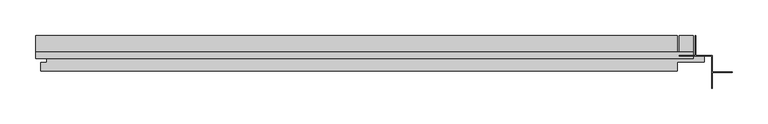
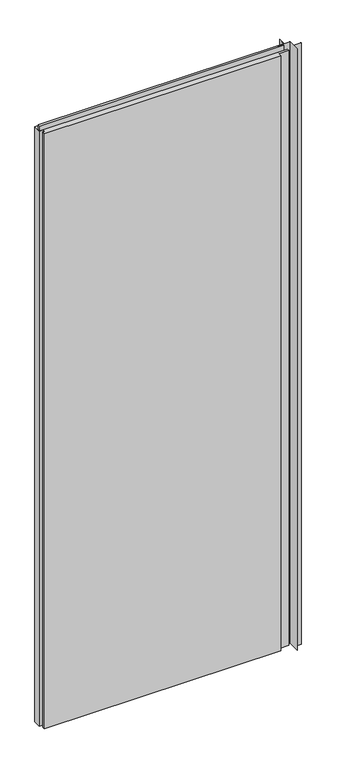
"""IFC4 building model written with IfcOpenShell, lengths in millimetres: plate geometry, Trimo_Qbiss Screen_Normal Panel-VERTICAL : HR - B."""

import ifcopenshell
import ifcopenshell.guid

model = None  # the IFC model being written
_history = None  # IfcOwnerHistory: only IFC2X3 demands one
_inside = {}  # id of a spatial element -> (the spatial element, [elements in it])
_under = {}  # id of a project, library or spatial element -> (it, [spatial elements below it])
_declared = {}  # id of a project -> (the project, [libraries it declares])
_typed = {}  # id of a type object -> (the type object, [elements of that type])
_made_of = {}  # id of a material, layer set ... -> (it, [elements and type objects made of it])


def new_model(schema):
    """Start an empty IFC model of exactly this schema.

    Asked for "IFC4X3", IfcOpenShell would pick the latest addendum, in which some entities
    have other attributes; the version numbers below select the first issue.
    IFC2X3 requires an IfcOwnerHistory on every rooted entity: one is made here for all.
    """
    global model, _history
    if schema == "IFC4X3":
        model = ifcopenshell.file(schema_version=(4, 3, 0, 0))
    else:
        model = ifcopenshell.file(schema=schema)
    _inside.clear()
    _under.clear()
    _declared.clear()
    _typed.clear()
    _made_of.clear()
    _history = None
    if model.schema == "IFC2X3":
        org = make("IfcOrganization", Name="unknown")
        user = make(
            "IfcPersonAndOrganization",
            ThePerson=make("IfcPerson", FamilyName="unknown"),
            TheOrganization=org,
        )
        app = make(
            "IfcApplication",
            ApplicationDeveloper=org,
            Version="unknown",
            ApplicationFullName="unknown",
            ApplicationIdentifier="unknown",
        )
        _history = make(
            "IfcOwnerHistory",
            OwningUser=user,
            OwningApplication=app,
            ChangeAction="ADDED",
            CreationDate=0,
        )
    return model


def make(cls, **values):
    """One entity of the class cls with the attributes given. An attribute that is None is left unset."""
    return model.create_entity(
        cls, **{name: value for name, value in values.items() if value is not None}
    )


def rooted(cls, **values):
    """An entity with a GlobalId (a new one), such as an element, a storey or a relation."""
    return make(cls, GlobalId=ifcopenshell.guid.new(), OwnerHistory=_history, **values)


def si_unit(unit_type, name, prefix=None):
    """IfcSIUnit, for example si_unit("LENGTHUNIT", "METRE", prefix="MILLI")."""
    return make("IfcSIUnit", UnitType=unit_type, Prefix=prefix, Name=name)


def assignment(units):
    """IfcUnitAssignment: the units of a project."""
    return None if units is None else make("IfcUnitAssignment", Units=units)


def point(xyz):
    """IfcCartesianPoint."""
    return None if xyz is None else make("IfcCartesianPoint", Coordinates=xyz)


def direction(xyz):
    """IfcDirection."""
    return None if xyz is None else make("IfcDirection", DirectionRatios=xyz)


def frame(location, z_axis=None, x_axis=None):
    """IfcAxis2Placement3D, a coordinate frame: its origin and axes. An axis left out is left unset."""
    return make(
        "IfcAxis2Placement3D",
        Location=point(location),
        Axis=direction(z_axis),
        RefDirection=direction(x_axis),
    )


def origin():
    """The frame at (0, 0, 0) with its axes left unset."""
    return frame((0.0, 0.0, 0.0))


def place(relative_to, where):
    """IfcLocalPlacement: puts the frame where relative to a parent placement (None: the world)."""
    return make(
        "IfcLocalPlacement", PlacementRelTo=relative_to, RelativePlacement=where
    )


def context(
    kind, dimensions, precision=None, world=None, true_north=None, identifier=None
):
    """IfcGeometricRepresentationContext, for example the 3D "Model" context."""
    return make(
        "IfcGeometricRepresentationContext",
        ContextIdentifier=identifier,
        ContextType=kind,
        CoordinateSpaceDimension=dimensions,
        Precision=precision,
        WorldCoordinateSystem=world,
        TrueNorth=true_north,
    )


def project(units=None, contexts=None):
    """IfcProject with its units and contexts."""
    return rooted(
        "IfcProject",
        Name="project",
        RepresentationContexts=contexts,
        UnitsInContext=assignment(units),
    )


def spatial(cls, under=None, at=None, **own):
    """A site, building, storey or space (cls), placed at a placement, below another one or the project."""
    s = rooted(cls, ObjectPlacement=at, **own)
    if under is not None:
        _under.setdefault(under.id(), (under, []))[1].append(s)
    return s


def polyline(points):
    """IfcPolyline through the points."""
    return make("IfcPolyline", Points=[point(p) for p in points])


def outline(outer, holes=None, kind="AREA"):
    """IfcArbitraryClosedProfileDef: a profile drawn as a closed curve; with holes, ...WithVoids."""
    if holes is None:
        return make("IfcArbitraryClosedProfileDef", ProfileType=kind, OuterCurve=outer)
    return make(
        "IfcArbitraryProfileDefWithVoids",
        ProfileType=kind,
        OuterCurve=outer,
        InnerCurves=holes,
    )


def extrude(swept, where, along, depth):
    """IfcExtrudedAreaSolid: the profile swept, set in the frame where, extruded along a direction by depth."""
    return make(
        "IfcExtrudedAreaSolid",
        SweptArea=swept,
        Position=where,
        ExtrudedDirection=direction(along),
        Depth=depth,
    )


def shape(context_of_items, identifier, shape_type, items):
    """IfcShapeRepresentation: the items that make up one representation, for example the "Body"."""
    return make(
        "IfcShapeRepresentation",
        ContextOfItems=context_of_items,
        RepresentationIdentifier=identifier,
        RepresentationType=shape_type,
        Items=items,
    )


def source(mapping_origin, context_of_items, identifier, shape_type, items):
    """IfcRepresentationMap: a shape defined once, which mapped items show again and again."""
    return make(
        "IfcRepresentationMap",
        MappingOrigin=mapping_origin,
        MappedRepresentation=shape(context_of_items, identifier, shape_type, items),
    )


def transform(
    local_origin,
    x_axis=None,
    y_axis=None,
    z_axis=None,
    scale=None,
    scale2=None,
    scale3=None,
    uniform=True,
):
    """IfcCartesianTransformationOperator3D, or its non-uniform kind. x_axis, y_axis, z_axis: its Axis1, 2, 3."""
    if uniform:
        return make(
            "IfcCartesianTransformationOperator3D",
            Axis1=direction(x_axis),
            Axis2=direction(y_axis),
            LocalOrigin=point(local_origin),
            Scale=scale,
            Axis3=direction(z_axis),
        )
    return make(
        "IfcCartesianTransformationOperator3DnonUniform",
        Axis1=direction(x_axis),
        Axis2=direction(y_axis),
        LocalOrigin=point(local_origin),
        Scale=scale,
        Axis3=direction(z_axis),
        Scale2=scale2,
        Scale3=scale3,
    )


def mapped(mapping_source, mapping_target):
    """IfcMappedItem: shows the shape of a source again, moved by a transform."""
    return make(
        "IfcMappedItem", MappingSource=mapping_source, MappingTarget=mapping_target
    )


def made_of(thing, what):
    """Note that an element or type object is made of a material, layer set ...; save() writes the relation."""
    if what is not None:
        _made_of.setdefault(what.id(), (what, []))[1].append(thing)
    return thing


def element(
    cls,
    number,
    at=None,
    inside=None,
    cuts=None,
    type_object=None,
    material=None,
    context=None,
    identifier="Body",
    shape_type=None,
    held_by="IfcProductDefinitionShape",
    body=None,
    shapes=None,
    **own,
):
    """One element of the class cls, such as IfcWall. Its Tag is "e" and its number.

    at: its placement. inside: the storey or other place that contains it. cuts: it is an
    opening in that element (IfcRelVoidsElement). A single representation is given by context,
    identifier, shape_type and body (its items); several are given by shapes. held_by: the class
    of the entity that holds the representations. save() writes the other relations.
    """
    e = rooted(cls, Tag="e%d" % number, ObjectPlacement=at, **own)
    if body is not None:
        shapes = [shape(context, identifier, shape_type, body)]
    if shapes is not None:
        e.Representation = make(held_by, Representations=shapes)
    if inside is not None:
        _inside.setdefault(inside.id(), (inside, []))[1].append(e)
    if cuts is not None:
        rooted(
            "IfcRelVoidsElement", RelatingBuildingElement=cuts, RelatedOpeningElement=e
        )
    if type_object is not None:
        _typed.setdefault(type_object.id(), (type_object, []))[1].append(e)
    return made_of(e, material)


def aggregate(whole, parts):
    """IfcRelAggregates: a whole, such as a stair, and the parts it consists of."""
    return rooted("IfcRelAggregates", RelatingObject=whole, RelatedObjects=parts)


def save(model, path):
    """Write the relations noted so far, then the file.

    IfcRelAggregates (storeys below a building ...), IfcRelContainedInSpatialStructure (elements
    in a storey), IfcRelDefinesByType, IfcRelAssociatesMaterial and IfcRelDeclares: one each for
    every whole, place, type object, material and project.
    """
    for whole, parts in _under.values():
        aggregate(whole, parts)
    for where, things in _inside.values():
        rooted(
            "IfcRelContainedInSpatialStructure",
            RelatedElements=things,
            RelatingStructure=where,
        )
    for kind, things in _typed.values():
        rooted("IfcRelDefinesByType", RelatedObjects=things, RelatingType=kind)
    for what, things in _made_of.values():
        rooted("IfcRelAssociatesMaterial", RelatedObjects=things, RelatingMaterial=what)
    for by, libraries in _declared.values():
        rooted("IfcRelDeclares", RelatingContext=by, RelatedDefinitions=libraries)
    model.write(path)


def plate_4d20720e(model_context):
    return source(origin(), model_context, "Body", "SweptSolid", [
        extrude(outline(polyline([(496.0, 97.0), (477.0, 97.0), (477.0, 126.0), (496.0, 126.0), (496.0, 97.0)])), frame((0.0, 0.0, 12.5), z_axis=(0.0, 0.0, 1.0), x_axis=(1.0, 0.0, 0.0)), (0.0, 0.0, 1.0), 2375.0),
        extrude(outline(polyline([(-425.0, 93.9), (-425.0, 102.6), (496.0, 102.6), (496.0, 93.9), (-425.0, 93.9)])), frame((0.0, 0.0, 2390.5), z_axis=(0.0, 0.0, 1.0), x_axis=(1.0, 0.0, 0.0)), (0.0, 0.0, 1.0), 19.0),
        extrude(outline(polyline([(474.0, 97.0), (511.5, 97.0), (511.5, 89.0), (474.0, 89.0), (474.0, 76.0), (-418.0, 76.0), (-418.0, 88.0), (-409.5, 88.0), (-409.5, 98.0), (-425.0, 98.0), (-425.0, 126.0), (474.0, 126.0), (474.0, 97.0)])), frame((0.0, 0.0, 12.5), z_axis=(0.0, 0.0, 1.0), x_axis=(1.0, 0.0, 0.0)), (0.0, 0.0, 1.0), 2375.0),
        extrude(outline(polyline([(499.0, 126.0), (499.8, 126.0), (499.8, 97.8), (522.8, 97.8), (522.8, 74.8), (551.0, 74.8), (551.0, 74.0), (522.8, 74.0), (522.8, 52.0), (522.0, 52.0), (522.0, 97.0), (477.0, 97.0), (477.0, 97.8), (499.0, 97.8), (499.0, 126.0)])), frame((0.0, 0.0, 12.5), z_axis=(0.0, 0.0, 1.0), x_axis=(1.0, 0.0, 0.0)), (0.0, 0.0, 1.0), 2400.0),
    ])


if __name__ == "__main__":
    model = new_model("IFC4")
    model_context = context("Model", 3, world=origin())
    ifc_project = project(units=[si_unit("LENGTHUNIT", "METRE", prefix="MILLI")], contexts=[model_context])
    site = spatial("IfcSite", under=ifc_project)
    building = spatial("IfcBuilding", under=site)
    placement = place(None, origin())
    plate_shape = plate_4d20720e(model_context)
    element("IfcPlate", 1, ObjectType="Trimo_Qbiss Screen_Normal Panel-VERTICAL : HR - B", at=placement, inside=building, context=model_context, shape_type="MappedRepresentation", body=[
        mapped(plate_shape, transform((0.0, 0.0, 0.0), x_axis=(1.0, 0.0, 0.0), y_axis=(0.0, 1.0, 0.0), z_axis=(0.0, 0.0, 1.0))),
    ])
    save(model, "model.ifc")
